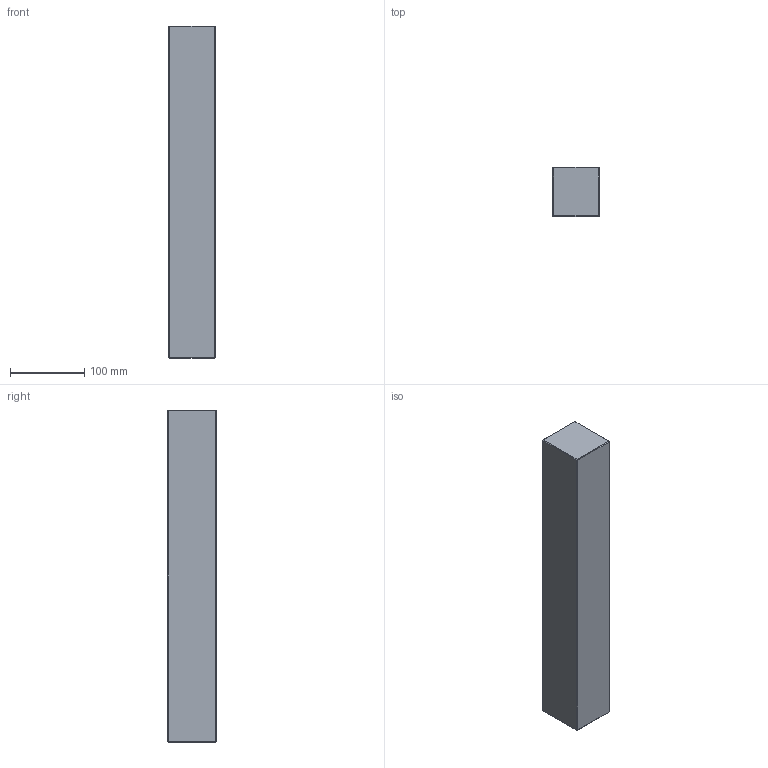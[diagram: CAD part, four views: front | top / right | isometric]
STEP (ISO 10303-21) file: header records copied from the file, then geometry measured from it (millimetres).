
FILE_DESCRIPTION (( 'STEP AP214' ), '1' );
FILE_NAME ('ESP-P-446X446x66.STEP', '2020-04-08T11:29:46', ( 'August' ), ( '' ), 'SwSTEP 2.0', 'SolidWorks 2018', '' );
FILE_SCHEMA (( 'AUTOMOTIVE_DESIGN' ));
Length unit declared in the file: millimetre
Products named in the file (1): ESP-P-446X446x66
Bounding box: 62 x 66 x 446 mm (x, y, z)
Volume: 1823889.3 mm3; surface area: 121012 mm2
Topology: 1 solids, 1 shells, 26 faces, 48 edges, 24 vertices
Faces by surface type: plane 26
Entity records: 634 total; most frequent: DIRECTION 102, CARTESIAN_POINT 99, ORIENTED_EDGE 96, VECTOR 48, LINE 48, EDGE_CURVE 48, AXIS2_PLACEMENT_3D 27, ADVANCED_FACE 26
